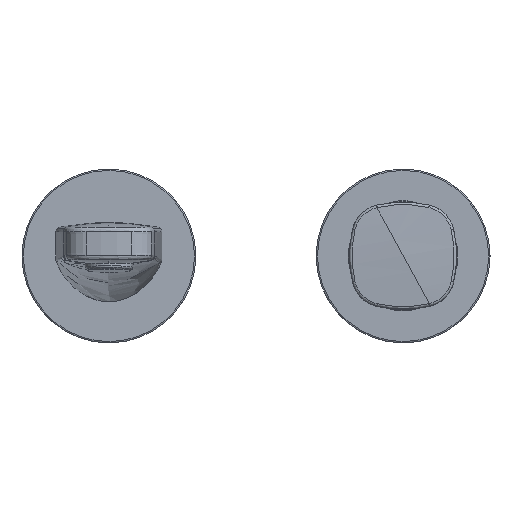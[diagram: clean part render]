
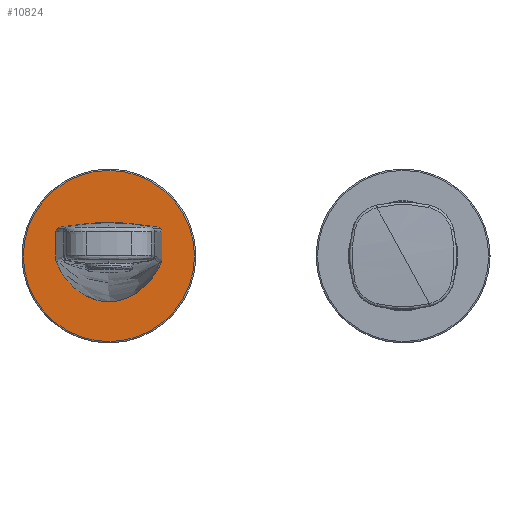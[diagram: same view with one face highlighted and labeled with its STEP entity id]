
A CAD part, top view. The second image highlights one B-rep face of the part: STEP entity #10824.
In plain terms, the highlighted planar face has unit normal (0, 0, 1).
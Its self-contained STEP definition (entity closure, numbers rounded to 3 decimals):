
#3985=CARTESIAN_POINT('',(0.,0.,15.2));
#3986=DIRECTION('',(0.,0.,-1.));
#3987=DIRECTION('',(1.,0.,0.));
#3988=AXIS2_PLACEMENT_3D('',#3985,#3986,#3987);
#3990=CARTESIAN_POINT('',(0.,0.,15.2));
#3991=DIRECTION('',(0.,0.,-1.));
#3992=DIRECTION('',(-1.,0.,0.));
#3993=AXIS2_PLACEMENT_3D('',#3990,#3991,#3992);
#3995=CARTESIAN_POINT('',(-17.981,9.85,15.2));
#3996=CARTESIAN_POINT('',(-18.041,9.839,15.2));
#3997=CARTESIAN_POINT('',(-18.156,9.808,15.2));
#3998=CARTESIAN_POINT('',(-18.316,9.733,15.2));
#3999=CARTESIAN_POINT('',(-18.46,9.634,15.2));
#4000=CARTESIAN_POINT('',(-18.585,9.511,15.2));
#4001=CARTESIAN_POINT('',(-18.687,9.367,15.2));
#4002=CARTESIAN_POINT('',(-18.765,9.208,15.2));
#4003=CARTESIAN_POINT('',(-18.814,9.038,15.2));
#4004=CARTESIAN_POINT('',(-18.826,8.923,15.2));
#4005=CARTESIAN_POINT('',(-18.828,8.864,15.2));
#4007=CARTESIAN_POINT('',(-18.828,-1.555,15.2));
#4008=CARTESIAN_POINT('',(-18.828,-1.571,
15.2));
#4009=CARTESIAN_POINT('',(-18.827,-1.597,
15.2));
#4010=CARTESIAN_POINT('',(-18.817,-1.663,
15.2));
#4011=CARTESIAN_POINT('',(-18.792,-1.766,
15.2));
#4012=CARTESIAN_POINT('',(-18.738,-1.923,
15.2));
#4013=CARTESIAN_POINT('',(-18.661,-2.113,
15.2));
#4014=CARTESIAN_POINT('',(-18.556,-2.362,
15.2));
#4015=CARTESIAN_POINT('',(-18.426,-2.663,
15.2));
#4016=CARTESIAN_POINT('',(-18.209,-3.142,
15.2));
#4017=CARTESIAN_POINT('',(-17.923,-3.732,
15.2));
#4018=CARTESIAN_POINT('',(-17.433,-4.665,
15.2));
#4019=CARTESIAN_POINT('',(-16.768,-5.799,
15.2));
#4020=CARTESIAN_POINT('',(-15.59,-7.544,
15.2));
#4021=CARTESIAN_POINT('',(-13.915,-9.579,15.2));
#4022=CARTESIAN_POINT('',(-11.602,-11.738,
15.2));
#4023=CARTESIAN_POINT('',(-9.013,-13.557,15.2));
#4024=CARTESIAN_POINT('',(-6.179,-14.968,15.2));
#4025=CARTESIAN_POINT('',(-3.147,-15.889,
15.2));
#4026=CARTESIAN_POINT('',(0.,-16.223,
15.2));
#4027=CARTESIAN_POINT('',(3.147,-15.889,15.2));
#4028=CARTESIAN_POINT('',(6.179,-14.968,15.2));
#4029=CARTESIAN_POINT('',(9.013,-13.557,15.2));
#4030=CARTESIAN_POINT('',(11.602,-11.738,15.2));
#4031=CARTESIAN_POINT('',(13.915,-9.579,15.2));
#4032=CARTESIAN_POINT('',(15.591,-7.544,15.2));
#4033=CARTESIAN_POINT('',(16.768,-5.799,15.2));
#4034=CARTESIAN_POINT('',(17.433,-4.665,15.2));
#4035=CARTESIAN_POINT('',(17.923,-3.732,15.2));
#4036=CARTESIAN_POINT('',(18.21,-3.142,15.2));
#4037=CARTESIAN_POINT('',(18.426,-2.663,15.2));
#4038=CARTESIAN_POINT('',(18.556,-2.363,15.2));
#4039=CARTESIAN_POINT('',(18.661,-2.113,15.2));
#4040=CARTESIAN_POINT('',(18.723,-1.96,15.2));
#4041=CARTESIAN_POINT('',(18.767,-1.839,15.2));
#4042=CARTESIAN_POINT('',(18.798,-1.741,15.2));
#4043=CARTESIAN_POINT('',(18.817,-1.663,15.2));
#4044=CARTESIAN_POINT('',(18.827,-1.597,15.2));
#4045=CARTESIAN_POINT('',(18.828,-1.571,15.2));
#4046=CARTESIAN_POINT('',(18.828,-1.555,15.2));
#4048=CARTESIAN_POINT('',(18.828,8.864,15.2));
#4049=CARTESIAN_POINT('',(18.826,8.922,15.2));
#4050=CARTESIAN_POINT('',(18.814,9.038,15.2));
#4051=CARTESIAN_POINT('',(18.765,9.207,15.2));
#4052=CARTESIAN_POINT('',(18.688,9.366,15.2));
#4053=CARTESIAN_POINT('',(18.586,9.51,15.2));
#4054=CARTESIAN_POINT('',(18.461,9.633,15.2));
#4055=CARTESIAN_POINT('',(18.317,9.732,15.2));
#4056=CARTESIAN_POINT('',(18.156,9.808,15.2));
#4057=CARTESIAN_POINT('',(18.041,9.839,15.2));
#4058=CARTESIAN_POINT('',(17.981,9.85,15.2));
#4060=CARTESIAN_POINT('',(17.981,9.85,15.2));
#4061=CARTESIAN_POINT('',(15.019,10.398,15.2));
#4062=CARTESIAN_POINT('',(9.04,11.224,15.2));
#4063=CARTESIAN_POINT('',(0.,11.638,15.2));
#4064=CARTESIAN_POINT('',(-9.04,11.224,15.2));
#4065=CARTESIAN_POINT('',(-15.019,10.398,15.2));
#4066=CARTESIAN_POINT('',(-17.981,9.85,15.2));
#4116=DIRECTION('',(0.,1.,0.));
#4117=VECTOR('',#4116,10.418);
#4118=CARTESIAN_POINT('',(-18.828,-1.555,15.2));
#4119=LINE('',#4118,#4117);
#4145=DIRECTION('',(0.,-1.,0.));
#4146=VECTOR('',#4145,10.419);
#4147=CARTESIAN_POINT('',(18.828,8.864,15.2));
#4148=LINE('',#4147,#4146);
#4686=VERTEX_POINT('',#3995);
#4687=VERTEX_POINT('',#4005);
#4688=CARTESIAN_POINT('',(32.,0.,15.2));
#4689=CARTESIAN_POINT('',(-32.,0.,15.2));
#4690=VERTEX_POINT('',#4688);
#4691=VERTEX_POINT('',#4689);
#4692=CARTESIAN_POINT('',(-18.828,-1.555,15.2));
#4693=VERTEX_POINT('',#4692);
#4694=VERTEX_POINT('',#4046);
#4695=CARTESIAN_POINT('',(18.828,8.864,15.2));
#4696=VERTEX_POINT('',#4695);
#4697=VERTEX_POINT('',#4058);
#10800=CARTESIAN_POINT('',(0.,0.,15.2));
#10801=DIRECTION('',(0.,0.,1.));
#10802=DIRECTION('',(-1.,0.,0.));
#10803=AXIS2_PLACEMENT_3D('',#10800,#10801,#10802);
#10804=PLANE('',#10803);
#10806=ORIENTED_EDGE('',*,*,#10805,.T.);
#10808=ORIENTED_EDGE('',*,*,#10807,.T.);
#10809=EDGE_LOOP('',(#10806,#10808));
#10810=FACE_OUTER_BOUND('',#10809,.F.);
#10811=ORIENTED_EDGE('',*,*,#10782,.T.);
#10813=ORIENTED_EDGE('',*,*,#10812,.F.);
#10815=ORIENTED_EDGE('',*,*,#10814,.T.);
#10817=ORIENTED_EDGE('',*,*,#10816,.F.);
#10819=ORIENTED_EDGE('',*,*,#10818,.T.);
#10821=ORIENTED_EDGE('',*,*,#10820,.T.);
#10822=EDGE_LOOP('',(#10811,#10813,#10815,#10817,#10819,#10821));
#10823=FACE_BOUND('',#10822,.F.);
#3989=CIRCLE('',#3988,32.);
#3994=CIRCLE('',#3993,32.);
#4006=B_SPLINE_CURVE_WITH_KNOTS('',3,(#3995,#3996,#3997,#3998,#3999,#4000,#4001,
#4002,#4003,#4004,#4005),.UNSPECIFIED.,.F.,.F.,(4,1,1,1,1,1,1,1,4),(0.,
0.125,0.25,0.375,0.5,0.625,0.75,0.875,1.),.UNSPECIFIED.);
#4047=B_SPLINE_CURVE_WITH_KNOTS('',3,(#4007,#4008,#4009,#4010,#4011,#4012,#4013,
#4014,#4015,#4016,#4017,#4018,#4019,#4020,#4021,#4022,#4023,#4024,#4025,#4026,
#4027,#4028,#4029,#4030,#4031,#4032,#4033,#4034,#4035,#4036,#4037,#4038,#4039,
#4040,#4041,#4042,#4043,#4044,#4045,#4046),.UNSPECIFIED.,.F.,.F.,(4,1,1,1,1,1,1,
1,1,1,1,1,1,1,1,1,1,1,1,1,1,1,1,1,1,1,1,1,1,1,1,1,1,1,1,1,1,4),(0.,
0.002,0.004,0.007,0.012,
0.016,0.02,0.027,0.035,
0.051,0.066,0.097,0.128,
0.189,0.251,0.313,0.375,
0.437,0.5,0.563,0.625,
0.687,0.749,0.811,0.872,
0.903,0.934,0.949,0.965,
0.973,0.98,0.984,0.988,
0.991,0.993,0.996,0.998,1.),
.UNSPECIFIED.);
#4059=B_SPLINE_CURVE_WITH_KNOTS('',3,(#4048,#4049,#4050,#4051,#4052,#4053,#4054,
#4055,#4056,#4057,#4058),.UNSPECIFIED.,.F.,.F.,(4,1,1,1,1,1,1,1,4),(0.,
0.125,0.25,0.375,0.5,0.625,0.75,0.875,1.),.UNSPECIFIED.);
#4067=B_SPLINE_CURVE_WITH_KNOTS('',3,(#4060,#4061,#4062,#4063,#4064,#4065,
#4066),.UNSPECIFIED.,.F.,.F.,(4,1,1,1,4),(0.,0.25,
0.5,0.75,1.),.UNSPECIFIED.);
#10782=EDGE_CURVE('',#4686,#4687,#4006,.T.);
#10805=EDGE_CURVE('',#4690,#4691,#3989,.T.);
#10807=EDGE_CURVE('',#4691,#4690,#3994,.T.);
#10812=EDGE_CURVE('',#4693,#4687,#4119,.T.);
#10814=EDGE_CURVE('',#4693,#4694,#4047,.T.);
#10816=EDGE_CURVE('',#4696,#4694,#4148,.T.);
#10818=EDGE_CURVE('',#4696,#4697,#4059,.T.);
#10820=EDGE_CURVE('',#4697,#4686,#4067,.T.);
#10824=ADVANCED_FACE('',(#10810,#10823),#10804,.T.);
